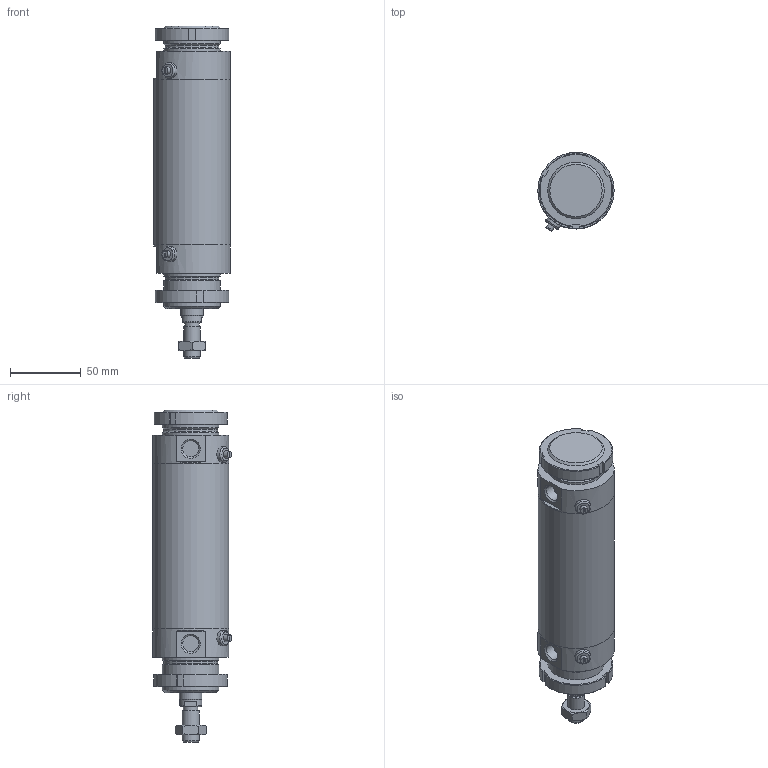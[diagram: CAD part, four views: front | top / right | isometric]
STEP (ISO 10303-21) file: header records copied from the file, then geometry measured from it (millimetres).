
FILE_DESCRIPTION(/* description */ (''),/* implementation_level */ '2;1');
FILE_NAME(/* name */ 'I:\Area Tecnica\Documenti\A-Manieri\_Inventor\12X\12X#C_###_####_#_#\12XBC_050_0075_#_#.stp',/* time_stamp */ '2015-04-28T15:43:37+02:00',/* author */ ('maniean1'),/* organization */ ('Pneumax S.p.A.'),/* preprocessor_version */ 'ST-DEVELOPER v15.2',/* originating_system */ 'Autodesk Inventor 2014',/* authorisation */ '');
FILE_SCHEMA (('AUTOMOTIVE_DESIGN { 1 0 10303 214 3 1 1 }'));
Length unit declared in the file: millimetre
Products named in the file (7): C1250_619-0075; 12X50_606; S12X50_0075; 12X_50_11; 12X50_621; G12X_050_05; 12XBC_050_0075_#_#
Bounding box: 54 x 55.88 x 235 mm (x, y, z)
Volume: 301716.7 mm3; surface area: 90298 mm2
Topology: 7 solids, 7 shells, 124 faces, 282 edges, 182 vertices
Faces by surface type: plane 64, cylinder 31, cone 27, torus 2
Full cylindrical faces by diameter (mm): 5 x2, 10.2 x1, 11 x2, 11.4 x2, 12 x2, 14 x1, 15.6 x1, 16 x1, 38.2 x2, 40 x6, 50 x2, 54 x3
Entity records: 2755 total; most frequent: CARTESIAN_POINT 553, DIRECTION 462, ORIENTED_EDGE 356, AXIS2_PLACEMENT_3D 197, EDGE_CURVE 178, EDGE_LOOP 160, VERTEX_POINT 136, ADVANCED_FACE 103
